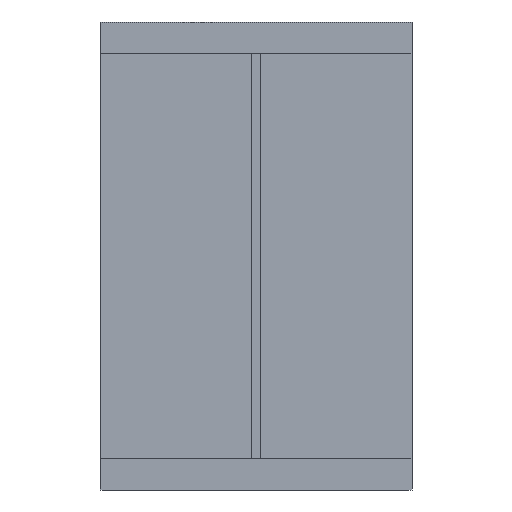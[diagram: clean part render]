
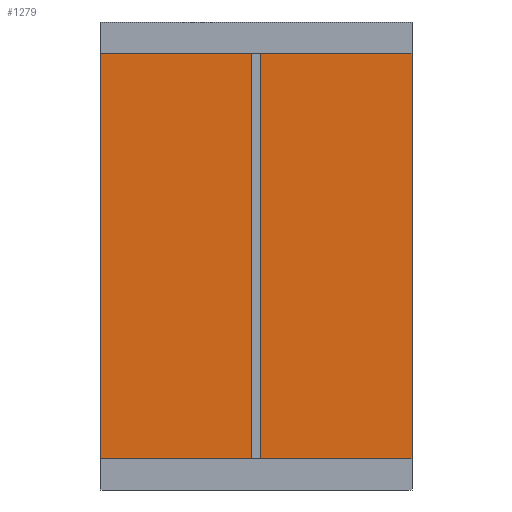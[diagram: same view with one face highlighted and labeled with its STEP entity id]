
A CAD part, front view. The second image highlights one B-rep face of the part: STEP entity #1279.
In plain terms, the highlighted planar face has unit normal (0, -1, 0).
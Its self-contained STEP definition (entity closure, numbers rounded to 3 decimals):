
#23 = ORIENTED_EDGE ( 'NONE', *, *, #738, .F. ) ;
#33 = CARTESIAN_POINT ( 'NONE',  ( -490., 520., 1400. ) ) ;
#54 = EDGE_CURVE ( 'NONE', #1276, #1151, #382, .T. ) ;
#84 = CARTESIAN_POINT ( 'NONE',  ( -490., 520., 1500. ) ) ;
#129 = VERTEX_POINT ( 'NONE', #1344 ) ;
#130 = LINE ( 'NONE', #349, #949 ) ;
#161 = CARTESIAN_POINT ( 'NONE',  ( 490., 520., 1400. ) ) ;
#165 = CARTESIAN_POINT ( 'NONE',  ( 490., 520., 1400. ) ) ;
#169 = CARTESIAN_POINT ( 'NONE',  ( 490., 520., 1500. ) ) ;
#201 = LINE ( 'NONE', #1129, #972 ) ;
#226 = EDGE_CURVE ( 'NONE', #1390, #421, #842, .T. ) ;
#240 = LINE ( 'NONE', #161, #1135 ) ;
#249 = LINE ( 'NONE', #727, #857 ) ;
#254 = EDGE_CURVE ( 'NONE', #1333, #363, #1343, .T. ) ;
#266 = CARTESIAN_POINT ( 'NONE',  ( 490., 520., 1500. ) ) ;
#273 = DIRECTION ( 'NONE',  ( -1., 0., 0. ) ) ;
#277 = VECTOR ( 'NONE', #494, 1000. ) ;
#285 = VERTEX_POINT ( 'NONE', #1169 ) ;
#304 = ORIENTED_EDGE ( 'NONE', *, *, #1402, .F. ) ;
#349 = CARTESIAN_POINT ( 'NONE',  ( 490., 520., 100. ) ) ;
#363 = VERTEX_POINT ( 'NONE', #395 ) ;
#367 = CARTESIAN_POINT ( 'NONE',  ( -490., 520., 100. ) ) ;
#368 = VERTEX_POINT ( 'NONE', #650 ) ;
#382 = LINE ( 'NONE', #639, #679 ) ;
#395 = CARTESIAN_POINT ( 'NONE',  ( -490., 520., 1500. ) ) ;
#400 = DIRECTION ( 'NONE',  ( 0., 0., 1. ) ) ;
#406 = DIRECTION ( 'NONE',  ( 0., -1., 0. ) ) ;
#421 = VERTEX_POINT ( 'NONE', #165 ) ;
#430 = ORIENTED_EDGE ( 'NONE', *, *, #1157, .F. ) ;
#432 = VECTOR ( 'NONE', #552, 1000. ) ;
#490 = DIRECTION ( 'NONE',  ( 0., 0., 1. ) ) ;
#494 = DIRECTION ( 'NONE',  ( 0., 0., -1. ) ) ;
#501 = LINE ( 'NONE', #621, #1470 ) ;
#505 = VECTOR ( 'NONE', #645, 1000. ) ;
#542 = EDGE_CURVE ( 'NONE', #368, #1408, #201, .T. ) ;
#552 = DIRECTION ( 'NONE',  ( 1., 0., 0. ) ) ;
#621 = CARTESIAN_POINT ( 'NONE',  ( -490., 520., 100. ) ) ;
#639 = CARTESIAN_POINT ( 'NONE',  ( -500., 520., 1400. ) ) ;
#641 = CARTESIAN_POINT ( 'NONE',  ( 0., 520., 0. ) ) ;
#645 = DIRECTION ( 'NONE',  ( 0., 0., -1. ) ) ;
#650 = CARTESIAN_POINT ( 'NONE',  ( 500., 520., 100. ) ) ;
#664 = ORIENTED_EDGE ( 'NONE', *, *, #226, .F. ) ;
#679 = VECTOR ( 'NONE', #490, 1000. ) ;
#711 = VECTOR ( 'NONE', #1214, 1000. ) ;
#719 = DIRECTION ( 'NONE',  ( 0., 0., -1. ) ) ;
#727 = CARTESIAN_POINT ( 'NONE',  ( -490., 520., 1400. ) ) ;
#738 = EDGE_CURVE ( 'NONE', #1408, #129, #130, .T. ) ;
#770 = LINE ( 'NONE', #1094, #505 ) ;
#785 = LINE ( 'NONE', #887, #711 ) ;
#799 = EDGE_CURVE ( 'NONE', #1308, #368, #770, .T. ) ;
#820 = CARTESIAN_POINT ( 'NONE',  ( 500., 520., 1400. ) ) ;
#842 = LINE ( 'NONE', #266, #277 ) ;
#857 = VECTOR ( 'NONE', #1415, 1000. ) ;
#867 = LINE ( 'NONE', #1318, #908 ) ;
#887 = CARTESIAN_POINT ( 'NONE',  ( -490., 520., 0. ) ) ;
#902 = CARTESIAN_POINT ( 'NONE',  ( -490., 520., 1500. ) ) ;
#908 = VECTOR ( 'NONE', #273, 1000. ) ;
#924 = CARTESIAN_POINT ( 'NONE',  ( 490., 520., 100. ) ) ;
#940 = LINE ( 'NONE', #902, #432 ) ;
#949 = VECTOR ( 'NONE', #719, 1000. ) ;
#959 = EDGE_CURVE ( 'NONE', #363, #1390, #940, .T. ) ;
#972 = VECTOR ( 'NONE', #1367, 1000. ) ;
#1016 = CARTESIAN_POINT ( 'NONE',  ( -500., 520., 100. ) ) ;
#1031 = ORIENTED_EDGE ( 'NONE', *, *, #959, .F. ) ;
#1078 = DIRECTION ( 'NONE',  ( 0., 0., 1. ) ) ;
#1089 = AXIS2_PLACEMENT_3D ( 'NONE', #641, #406, #1098 ) ;
#1094 = CARTESIAN_POINT ( 'NONE',  ( 500., 520., 1400. ) ) ;
#1098 = DIRECTION ( 'NONE',  ( 0., 0., -1. ) ) ;
#1104 = PLANE ( 'NONE',  #1089 ) ;
#1116 = VERTEX_POINT ( 'NONE', #367 ) ;
#1122 = ORIENTED_EDGE ( 'NONE', *, *, #254, .F. ) ;
#1129 = CARTESIAN_POINT ( 'NONE',  ( 500., 520., 100. ) ) ;
#1130 = ORIENTED_EDGE ( 'NONE', *, *, #799, .F. ) ;
#1135 = VECTOR ( 'NONE', #1466, 1000. ) ;
#1151 = VERTEX_POINT ( 'NONE', #1287 ) ;
#1153 = ORIENTED_EDGE ( 'NONE', *, *, #542, .F. ) ;
#1157 = EDGE_CURVE ( 'NONE', #1151, #1333, #249, .T. ) ;
#1169 = CARTESIAN_POINT ( 'NONE',  ( -490., 520., 0. ) ) ;
#1173 = EDGE_CURVE ( 'NONE', #285, #1116, #501, .T. ) ;
#1195 = VECTOR ( 'NONE', #400, 1000. ) ;
#1214 = DIRECTION ( 'NONE',  ( -1., 0., 0. ) ) ;
#1235 = FACE_OUTER_BOUND ( 'NONE', #1424, .T. ) ;
#1276 = VERTEX_POINT ( 'NONE', #1016 ) ;
#1279 = ADVANCED_FACE ( 'NONE', ( #1235 ), #1104, .T. ) ;
#1287 = CARTESIAN_POINT ( 'NONE',  ( -500., 520., 1400. ) ) ;
#1308 = VERTEX_POINT ( 'NONE', #820 ) ;
#1318 = CARTESIAN_POINT ( 'NONE',  ( -500., 520., 100. ) ) ;
#1330 = ORIENTED_EDGE ( 'NONE', *, *, #1401, .F. ) ;
#1333 = VERTEX_POINT ( 'NONE', #33 ) ;
#1343 = LINE ( 'NONE', #84, #1195 ) ;
#1344 = CARTESIAN_POINT ( 'NONE',  ( 490., 520., 0. ) ) ;
#1347 = EDGE_CURVE ( 'NONE', #421, #1308, #240, .T. ) ;
#1363 = ORIENTED_EDGE ( 'NONE', *, *, #1347, .F. ) ;
#1367 = DIRECTION ( 'NONE',  ( -1., 0., 0. ) ) ;
#1390 = VERTEX_POINT ( 'NONE', #169 ) ;
#1401 = EDGE_CURVE ( 'NONE', #129, #285, #785, .T. ) ;
#1402 = EDGE_CURVE ( 'NONE', #1116, #1276, #867, .T. ) ;
#1406 = ORIENTED_EDGE ( 'NONE', *, *, #1173, .F. ) ;
#1408 = VERTEX_POINT ( 'NONE', #924 ) ;
#1415 = DIRECTION ( 'NONE',  ( 1., 0., 0. ) ) ;
#1424 = EDGE_LOOP ( 'NONE', ( #1450, #304, #1406, #1330, #23, #1153, #1130, #1363, #664, #1031, #1122, #430 ) ) ;
#1450 = ORIENTED_EDGE ( 'NONE', *, *, #54, .F. ) ;
#1466 = DIRECTION ( 'NONE',  ( 1., 0., 0. ) ) ;
#1470 = VECTOR ( 'NONE', #1078, 1000. ) ;
